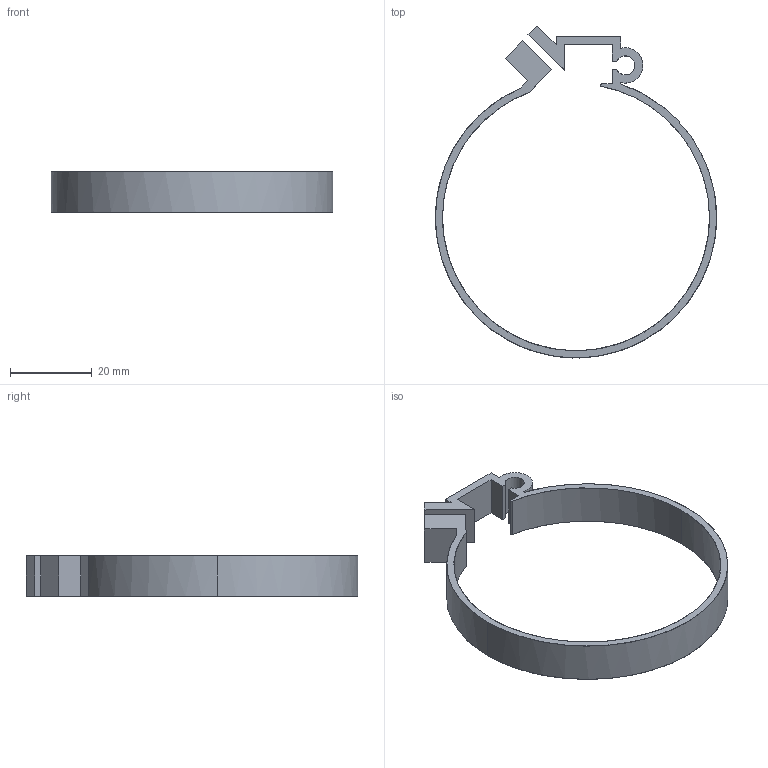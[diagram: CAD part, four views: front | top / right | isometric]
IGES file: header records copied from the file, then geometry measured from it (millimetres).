
Start section: Comment
Global section: file name: xf-65.igs; native system:  By UGS Corp.; preprocessor: XPlus GENERIC/IGES 3.0; author: Author; organization: Title; date: 20080926.125553; units: millimetre
Bounding box: 68.9 x 81.32 x 10 mm (x, y, z)
Surface area: 6168.2 mm2 (no closed solid volume)
Topology: 0 solids, 0 shells, 31 faces, 178 edges, 178 vertices
Faces by surface type: bspline 31
